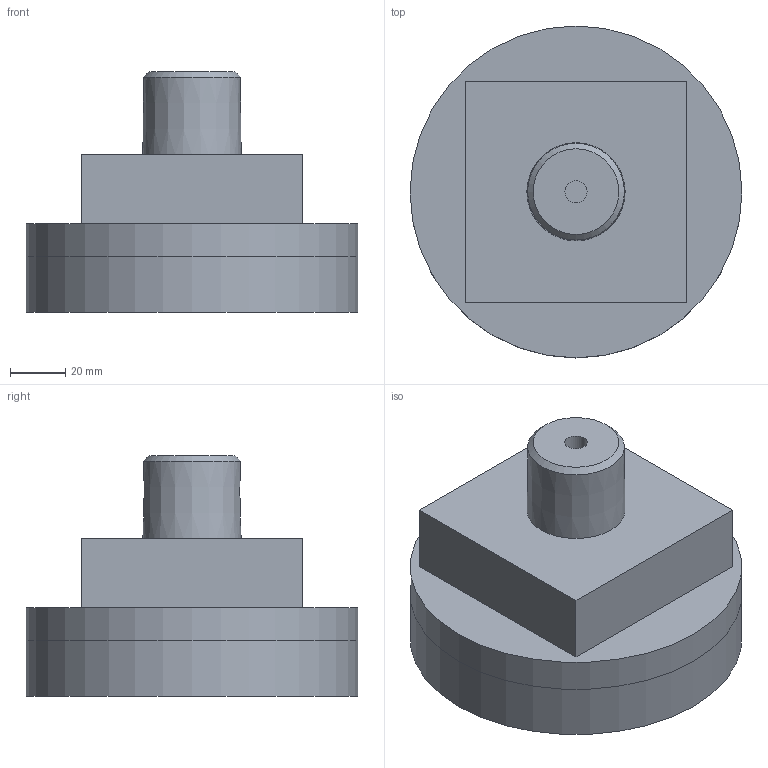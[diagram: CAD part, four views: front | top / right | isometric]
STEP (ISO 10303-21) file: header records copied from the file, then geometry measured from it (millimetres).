
FILE_DESCRIPTION (( 'STEP AP203' ), '1' );
FILE_NAME ('Flat adapter med gummikudde 1392.STEP', '2026-06-03T06:12:58', ( '' ), ( '' ), 'SwSTEP 2.0', 'SolidWorks 2021', '' );
FILE_SCHEMA (( 'CONFIG_CONTROL_DESIGN' ));
Length unit declared in the file: millimetre
Products named in the file (1): Flat adapter med gummikudde 1392
Bounding box: 120 x 120 x 87 mm (x, y, z)
Volume: 543612.8 mm3; surface area: 70112.3 mm2
Topology: 2 solids, 2 shells, 19 faces, 32 edges, 21 vertices
Faces by surface type: plane 12, cylinder 5, cone 2
Full cylindrical faces by diameter (mm): 8 x1, 13 x1, 24 x1, 120 x2
Entity records: 495 total; most frequent: DIRECTION 78, CARTESIAN_POINT 66, ORIENTED_EDGE 50, AXIS2_PLACEMENT_3D 33, EDGE_LOOP 32, EDGE_CURVE 25, FACE_OUTER_BOUND 24, VERTEX_POINT 21
